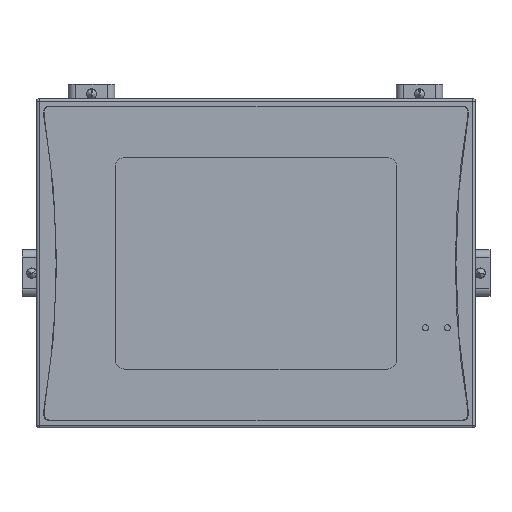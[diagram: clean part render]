
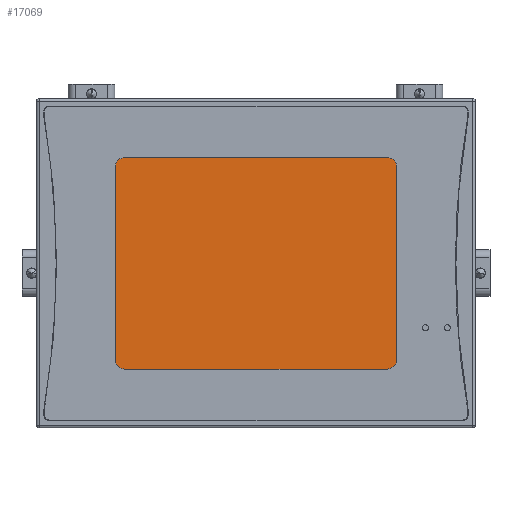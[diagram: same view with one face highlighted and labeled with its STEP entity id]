
A CAD part, top view. The second image highlights one B-rep face of the part: STEP entity #17069.
In plain terms, the highlighted planar face has unit normal (0, 0, 1).
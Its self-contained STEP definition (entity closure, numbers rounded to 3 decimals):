
#1358 = DIRECTION ( 'NONE',  ( 0., 1., 0. ) ) ;
#2384 = FACE_OUTER_BOUND ( 'NONE', #36235, .T. ) ;
#2862 = LINE ( 'NONE', #25983, #8206 ) ;
#3400 = LINE ( 'NONE', #25370, #36465 ) ;
#3525 = CARTESIAN_POINT ( 'NONE',  ( 7.3, 3.6, 1.1 ) ) ;
#4909 = EDGE_CURVE ( 'NONE', #37184, #6877, #7319, .T. ) ;
#6535 = PLANE ( 'NONE',  #32401 ) ;
#6736 = DIRECTION ( 'NONE',  ( 1., 0., 0. ) ) ;
#6877 = VERTEX_POINT ( 'NONE', #23556 ) ;
#7319 = LINE ( 'NONE', #12465, #9389 ) ;
#8206 = VECTOR ( 'NONE', #17919, 1000. ) ;
#8315 = CARTESIAN_POINT ( 'NONE',  ( 7.3, 92., 1.1 ) ) ;
#8329 = EDGE_CURVE ( 'NONE', #29648, #29297, #32194, .T. ) ;
#8339 = EDGE_CURVE ( 'NONE', #29297, #37184, #2862, .T. ) ;
#9389 = VECTOR ( 'NONE', #14451, 1000. ) ;
#12465 = CARTESIAN_POINT ( 'NONE',  ( 7.3, 92., 1.1 ) ) ;
#14451 = DIRECTION ( 'NONE',  ( 0., -1., 0. ) ) ;
#16661 = CARTESIAN_POINT ( 'NONE',  ( 124.4, 92., 1.1 ) ) ;
#17069 = ADVANCED_FACE ( 'NONE', ( #2384 ), #6535, .T. ) ;
#17919 = DIRECTION ( 'NONE',  ( -1., 0., 0. ) ) ;
#20113 = CARTESIAN_POINT ( 'NONE',  ( 124.4, 92., 1.1 ) ) ;
#23556 = CARTESIAN_POINT ( 'NONE',  ( 7.3, 3.6, 1.1 ) ) ;
#25369 = EDGE_CURVE ( 'NONE', #6877, #29648, #3400, .T. ) ;
#25370 = CARTESIAN_POINT ( 'NONE',  ( 7.3, 3.6, 1.1 ) ) ;
#25723 = ORIENTED_EDGE ( 'NONE', *, *, #8339, .T. ) ;
#25983 = CARTESIAN_POINT ( 'NONE',  ( 7.3, 92., 1.1 ) ) ;
#29297 = VERTEX_POINT ( 'NONE', #16661 ) ;
#29648 = VERTEX_POINT ( 'NONE', #34143 ) ;
#32194 = LINE ( 'NONE', #20113, #33962 ) ;
#32401 = AXIS2_PLACEMENT_3D ( 'NONE', #3525, #34975, #33820 ) ;
#33154 = ORIENTED_EDGE ( 'NONE', *, *, #25369, .T. ) ;
#33820 = DIRECTION ( 'NONE',  ( 1., 0., 0. ) ) ;
#33962 = VECTOR ( 'NONE', #1358, 1000. ) ;
#34143 = CARTESIAN_POINT ( 'NONE',  ( 124.4, 3.6, 1.1 ) ) ;
#34633 = ORIENTED_EDGE ( 'NONE', *, *, #8329, .T. ) ;
#34975 = DIRECTION ( 'NONE',  ( 0., 0., 1. ) ) ;
#35365 = ORIENTED_EDGE ( 'NONE', *, *, #4909, .T. ) ;
#36235 = EDGE_LOOP ( 'NONE', ( #35365, #33154, #34633, #25723 ) ) ;
#36465 = VECTOR ( 'NONE', #6736, 1000. ) ;
#37184 = VERTEX_POINT ( 'NONE', #8315 ) ;
